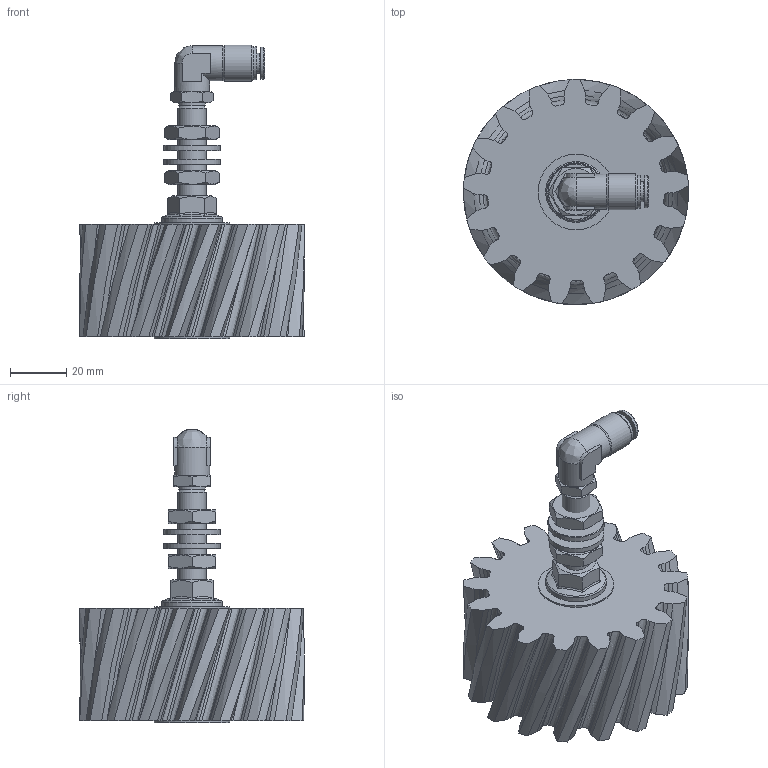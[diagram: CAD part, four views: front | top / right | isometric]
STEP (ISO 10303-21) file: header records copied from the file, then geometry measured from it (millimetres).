
FILE_DESCRIPTION (( 'STEP AP214' ), '1' );
FILE_NAME ('012_13_04_40_17ARZ.STEP', '2026-04-14T12:36:09', ( '' ), ( '' ), 'SwSTEP 2.0', 'SolidWorks 2022', '' );
FILE_SCHEMA (( 'AUTOMOTIVE_DESIGN' ));
Length unit declared in the file: millimetre
Products named in the file (13): H214667-HDS_1-8_M6X1Z; 12012_06_01_Scheibe-CRS-VA_27.SLDASM; U_Scheibe_10.5; Modul_4_S_R; H202225_HDS_022_6_M6_28.09.22; Achse_M10_1_Schmierzahnrad; 012_06_Senkschraube; DR6-C_HDX_25.07.16; Mutter_M10; OR 7.2X1.9; 012_13_04_40_17ARZ; R11155-N2
Assembly tree (14 placements, depth 4):
  012_13_04_40_17ARZ
    Achse_M10_1_Schmierzahnrad
    12012_06_01_Scheibe-CRS-VA_27.SLDASM
    012_06_Senkschraube
    Mutter_M10  x2
    U_Scheibe_10.5  x2
    H202225_HDS_022_6_M6_28.09.22
      R11155-N2
      DR6-C_HDX_25.07.16
      H214667-HDS_1-8_M6X1Z
        H214667-HDS_1-8_M6X1Z
        OR 7.2X1.9
    Modul_4_S_R
Bounding box: 80.17 x 80.18 x 104.7 mm (x, y, z)
Volume: 175886.9 mm3; surface area: 37761.3 mm2
Topology: 12 solids, 12 shells, 685 faces, 1880 edges, 1255 vertices
Faces by surface type: plane 328, bspline 248, cylinder 56, cone 49, torus 4
Full cylindrical faces by diameter (mm): 2 x1, 4 x1, 4.6 x1, 5 x1, 6 x2, 6.2 x1, 6.3 x1, 7.2 x1, 8.5 x2, 9 x2, 9.5 x1, 9.9 x1, 10 x2, 10.1 x2, 10.3 x1, 10.5 x2, 11.5 x1, 11.7 x1, 12.5 x2, 13 x1, 20 x2, 21.6 x1, 27 x2
Entity records: 68210 total; most frequent: CARTESIAN_POINT 51541, ORIENTED_EDGE 3454, DIRECTION 2348, EDGE_CURVE 1727, VERTEX_POINT 1187, VECTOR 1058, LINE 1058, EDGE_LOOP 786
